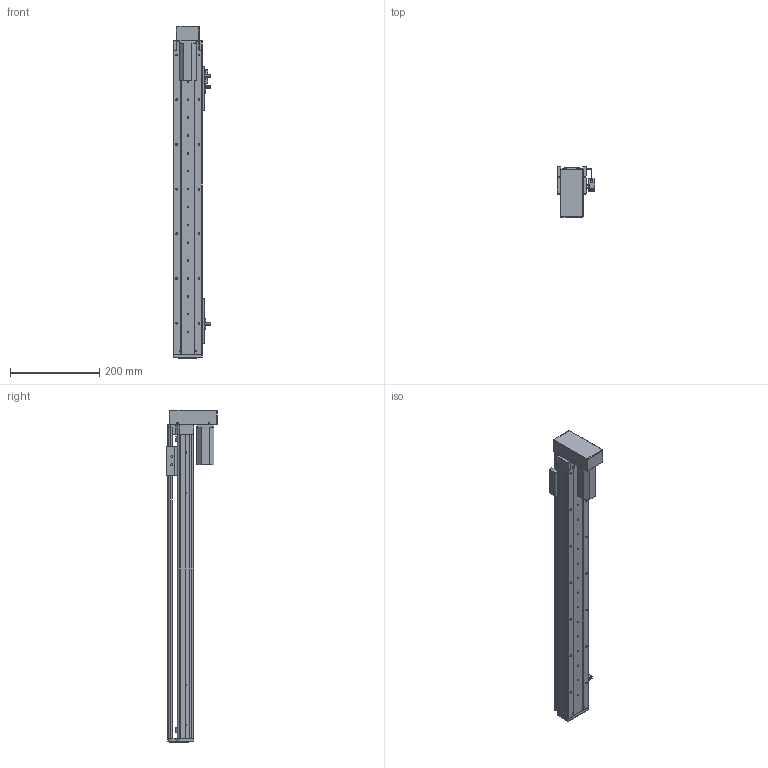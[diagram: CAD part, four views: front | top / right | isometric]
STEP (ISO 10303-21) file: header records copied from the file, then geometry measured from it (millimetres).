
FILE_DESCRIPTION (( 'STEP AP203' ), '1' );
FILE_NAME ('RY60-L1210-300-BK.SLDASM_550.step', '2021-02-20T06:42:17', ( '盈信电脑' ), ( '东莞市道滘镇水果街19号' ), 'SwSTEP 2.0', 'SolidWorks 2012', '' );
FILE_SCHEMA (( 'CONFIG_CONTROL_DESIGN' ));
Products named in the file (13): 滅袉蝶18-10; RY60狟殏萇儂欶100W; RY60-L1210-300-BK.SLDASM_550; RY60狟殏萇儂假蚾啣; RY60转折电机端支撑座; RY80俋离覜茼え; 侂狟100W; 672嫖萇羲壽假蚾釱; RY60-300倰第裔啣-BK_550; 覜茼ん672; RY60綴裔啣; RY60-300倰第菁釱-BK_550; RY60臏賑輸
Assembly tree (18 placements, depth 2):
  RY60-L1210-300-BK.SLDASM_550
    RY60-300倰第菁釱-BK_550
    RY60臏賑輸
    RY60-300倰第裔啣-BK_550
    672嫖萇羲壽假蚾釱  x2
    RY60綴裔啣
    覜茼ん672  x3
    RY80俋离覜茼え
    RY60转折电机端支撑座
    RY60狟殏萇儂假蚾啣
    侂狟100W
    RY60狟殏萇儂欶100W
    滅袉蝶18-10  x4
Bounding box: 83.7 x 113.5 x 743 mm (x, y, z)
Volume: 959624.4 mm3; surface area: 485007.1 mm2
Topology: 18 solids, 18 shells, 1451 faces, 4061 edges, 2602 vertices
Faces by surface type: plane 719, cylinder 607, cone 108, bspline 17
Entity records: 43524 total; most frequent: CARTESIAN_POINT 10391, ORIENTED_EDGE 6690, DIRECTION 6483, EDGE_CURVE 3345, AXIS2_PLACEMENT_3D 2224, VERTEX_POINT 2182, LINE 2035, VECTOR 2035
